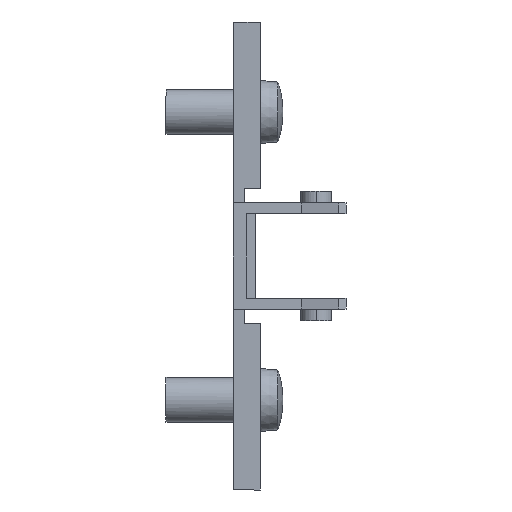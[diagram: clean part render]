
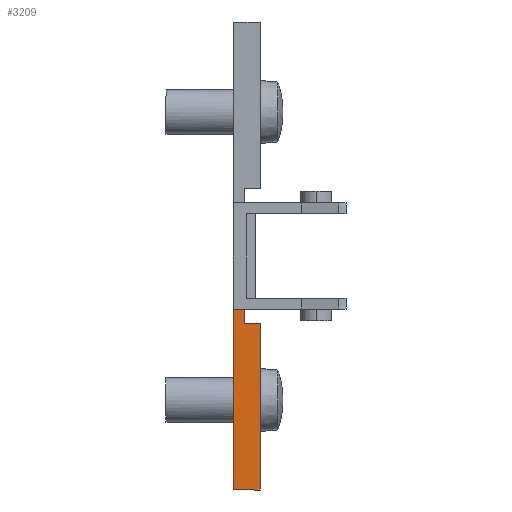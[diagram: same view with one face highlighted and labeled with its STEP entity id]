
A CAD part, front view. The second image highlights one B-rep face of the part: STEP entity #3209.
In plain terms, the highlighted planar face has unit normal (0, -1, 0).
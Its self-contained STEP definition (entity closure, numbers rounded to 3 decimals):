
#32 = DIRECTION ( 'NONE',  ( 1., 0., 0. ) ) ;
#37 = CARTESIAN_POINT ( 'NONE',  ( 1.2, -9., -5.9 ) ) ;
#77 = CARTESIAN_POINT ( 'NONE',  ( 1.2, -9., -5. ) ) ;
#78 = DIRECTION ( 'NONE',  ( 0., 0., 1. ) ) ;
#386 = DIRECTION ( 'NONE',  ( 0., 0., 1. ) ) ;
#387 = DIRECTION ( 'NONE',  ( 0., 1., 0. ) ) ;
#393 = CARTESIAN_POINT ( 'NONE',  ( 1.2, -9., -5. ) ) ;
#397 = PLANE ( 'NONE',  #2814 ) ;
#531 = DIRECTION ( 'NONE',  ( 0., 0., 1. ) ) ;
#533 = CARTESIAN_POINT ( 'NONE',  ( 3., -9., -7.5 ) ) ;
#560 = CARTESIAN_POINT ( 'NONE',  ( 0., -9., -26. ) ) ;
#698 = DIRECTION ( 'NONE',  ( 0., 0., -1. ) ) ;
#738 = CARTESIAN_POINT ( 'NONE',  ( 1.2, -9., -7.5 ) ) ;
#805 = DIRECTION ( 'NONE',  ( -1., 0., 0. ) ) ;
#859 = CARTESIAN_POINT ( 'NONE',  ( 3., -9., -26. ) ) ;
#888 = DIRECTION ( 'NONE',  ( 1., 0., 0. ) ) ;
#971 = VECTOR ( 'NONE', #78, 1000. ) ;
#974 = LINE ( 'NONE', #77, #971 ) ;
#984 = CARTESIAN_POINT ( 'NONE',  ( 0., -9., -5.9 ) ) ;
#992 = CARTESIAN_POINT ( 'NONE',  ( 3., -9., -26. ) ) ;
#1017 = CARTESIAN_POINT ( 'NONE',  ( 3., -9., -7.5 ) ) ;
#1019 = CARTESIAN_POINT ( 'NONE',  ( 0., -9., -26. ) ) ;
#1038 = VERTEX_POINT ( 'NONE', #984 ) ;
#1043 = VERTEX_POINT ( 'NONE', #1019 ) ;
#1054 = VERTEX_POINT ( 'NONE', #1017 ) ;
#1059 = VERTEX_POINT ( 'NONE', #992 ) ;
#1196 = VERTEX_POINT ( 'NONE', #2616 ) ;
#1242 = VERTEX_POINT ( 'NONE', #2594 ) ;
#1344 = FACE_OUTER_BOUND ( 'NONE', #2059, .T. ) ;
#1461 = LINE ( 'NONE', #37, #1464 ) ;
#1464 = VECTOR ( 'NONE', #32, 1000. ) ;
#1485 = VECTOR ( 'NONE', #805, 1000. ) ;
#1486 = LINE ( 'NONE', #738, #1485 ) ;
#1586 = VECTOR ( 'NONE', #698, 1000. ) ;
#1604 = LINE ( 'NONE', #560, #1586 ) ;
#1972 = ORIENTED_EDGE ( 'NONE', *, *, #3074, .F. ) ;
#1973 = ORIENTED_EDGE ( 'NONE', *, *, #2987, .T. ) ;
#1974 = ORIENTED_EDGE ( 'NONE', *, *, #2934, .T. ) ;
#1975 = ORIENTED_EDGE ( 'NONE', *, *, #2868, .T. ) ;
#1976 = ORIENTED_EDGE ( 'NONE', *, *, #3054, .T. ) ;
#1977 = ORIENTED_EDGE ( 'NONE', *, *, #3097, .T. ) ;
#2059 = EDGE_LOOP ( 'NONE', ( #1972, #1973, #1974, #1975, #1976, #1977 ) ) ;
#2594 = CARTESIAN_POINT ( 'NONE',  ( 1.2, -9., -7.5 ) ) ;
#2616 = CARTESIAN_POINT ( 'NONE',  ( 1.2, -9., -5.9 ) ) ;
#2814 = AXIS2_PLACEMENT_3D ( 'NONE', #393, #387, #386 ) ;
#2868 = EDGE_CURVE ( 'NONE', #1059, #1054, #3384, .T. ) ;
#2934 = EDGE_CURVE ( 'NONE', #1043, #1059, #3262, .T. ) ;
#2987 = EDGE_CURVE ( 'NONE', #1038, #1043, #1604, .T. ) ;
#3054 = EDGE_CURVE ( 'NONE', #1054, #1242, #1486, .T. ) ;
#3074 = EDGE_CURVE ( 'NONE', #1038, #1196, #1461, .T. ) ;
#3097 = EDGE_CURVE ( 'NONE', #1242, #1196, #974, .T. ) ;
#3209 = ADVANCED_FACE ( 'NONE', ( #1344 ), #397, .F. ) ;
#3247 = VECTOR ( 'NONE', #888, 1000. ) ;
#3262 = LINE ( 'NONE', #859, #3247 ) ;
#3379 = VECTOR ( 'NONE', #531, 1000. ) ;
#3384 = LINE ( 'NONE', #533, #3379 ) ;
